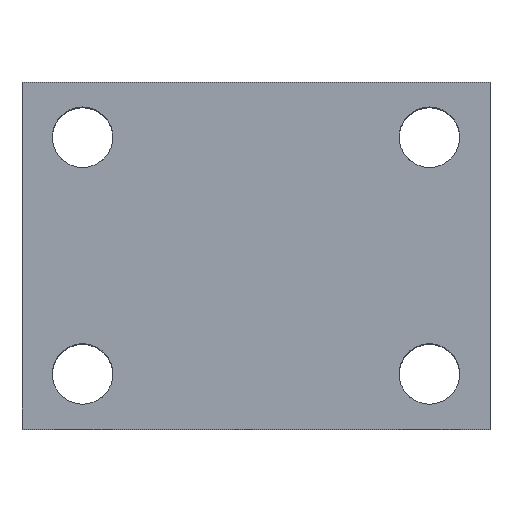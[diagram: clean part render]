
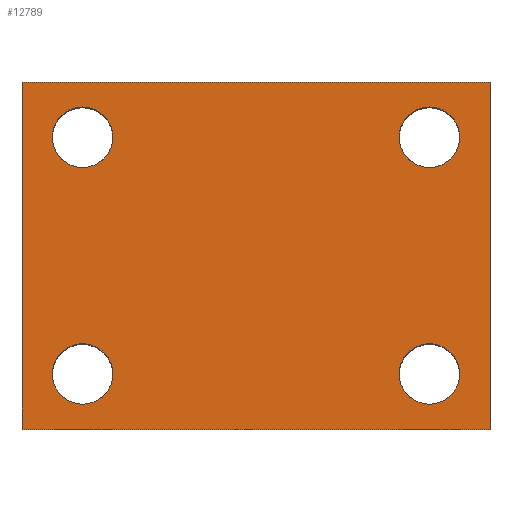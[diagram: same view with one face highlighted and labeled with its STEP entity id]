
A CAD part, top view. The second image highlights one B-rep face of the part: STEP entity #12789.
In plain terms, the highlighted planar face has unit normal (0, 0, 1).
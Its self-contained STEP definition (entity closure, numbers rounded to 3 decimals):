
#203 = DIRECTION ( 'NONE',  ( 0., 0., -1. ) ) ;
#356 = CIRCLE ( 'NONE', #11470, 5.5 ) ;
#364 = EDGE_LOOP ( 'NONE', ( #1953, #11767 ) ) ;
#547 = DIRECTION ( 'NONE',  ( -1., 0., 0. ) ) ;
#734 = CARTESIAN_POINT ( 'NONE',  ( -31.5, 10., 47.5 ) ) ;
#756 = VERTEX_POINT ( 'NONE', #14643 ) ;
#841 = ORIENTED_EDGE ( 'NONE', *, *, #3830, .T. ) ;
#1269 = VERTEX_POINT ( 'NONE', #15732 ) ;
#1343 = DIRECTION ( 'NONE',  ( -1., 0., 0. ) ) ;
#1619 = FACE_OUTER_BOUND ( 'NONE', #6662, .T. ) ;
#1671 = DIRECTION ( 'NONE',  ( 1., 0., 0. ) ) ;
#1738 = LINE ( 'NONE', #13819, #4977 ) ;
#1742 = AXIS2_PLACEMENT_3D ( 'NONE', #3159, #12877, #4534 ) ;
#1953 = ORIENTED_EDGE ( 'NONE', *, *, #3225, .T. ) ;
#2108 = DIRECTION ( 'NONE',  ( -1., 0., 0. ) ) ;
#2119 = DIRECTION ( 'NONE',  ( 0., -1., 0. ) ) ;
#2634 = DIRECTION ( 'NONE',  ( 0., 0., -1. ) ) ;
#2912 = AXIS2_PLACEMENT_3D ( 'NONE', #734, #10421, #2108 ) ;
#2975 = DIRECTION ( 'NONE',  ( 0., 0., -1. ) ) ;
#3159 = CARTESIAN_POINT ( 'NONE',  ( -31.5, 53., 47.5 ) ) ;
#3195 = EDGE_CURVE ( 'NONE', #5571, #6062, #4403, .T. ) ;
#3225 = EDGE_CURVE ( 'NONE', #1269, #13439, #356, .T. ) ;
#3304 = CARTESIAN_POINT ( 'NONE',  ( -26., 53., 47.5 ) ) ;
#3360 = VERTEX_POINT ( 'NONE', #12641 ) ;
#3409 = EDGE_CURVE ( 'NONE', #13439, #1269, #16200, .T. ) ;
#3611 = EDGE_CURVE ( 'NONE', #15605, #14184, #3763, .T. ) ;
#3763 = CIRCLE ( 'NONE', #7370, 5.5 ) ;
#3830 = EDGE_CURVE ( 'NONE', #10463, #16294, #15968, .T. ) ;
#3983 = LINE ( 'NONE', #11760, #14204 ) ;
#4034 = ORIENTED_EDGE ( 'NONE', *, *, #3611, .T. ) ;
#4131 = DIRECTION ( 'NONE',  ( 0., 0., -1. ) ) ;
#4403 = CIRCLE ( 'NONE', #8660, 5.5 ) ;
#4478 = ORIENTED_EDGE ( 'NONE', *, *, #16741, .T. ) ;
#4534 = DIRECTION ( 'NONE',  ( -1., 0., 0. ) ) ;
#4977 = VECTOR ( 'NONE', #8332, 1000. ) ;
#4983 = EDGE_CURVE ( 'NONE', #756, #3360, #14626, .T. ) ;
#5115 = CARTESIAN_POINT ( 'NONE',  ( -26., 10., 47.5 ) ) ;
#5220 = AXIS2_PLACEMENT_3D ( 'NONE', #16484, #8130, #17906 ) ;
#5273 = CARTESIAN_POINT ( 'NONE',  ( -37., 53., 47.5 ) ) ;
#5306 = FACE_BOUND ( 'NONE', #16841, .T. ) ;
#5332 = CARTESIAN_POINT ( 'NONE',  ( -42.5, 0., 47.5 ) ) ;
#5571 = VERTEX_POINT ( 'NONE', #17213 ) ;
#5707 = VECTOR ( 'NONE', #17958, 1000. ) ;
#5816 = VERTEX_POINT ( 'NONE', #5273 ) ;
#6062 = VERTEX_POINT ( 'NONE', #6080 ) ;
#6080 = CARTESIAN_POINT ( 'NONE',  ( 37., 10., 47.5 ) ) ;
#6662 = EDGE_LOOP ( 'NONE', ( #841, #14929, #17243, #4478 ) ) ;
#6696 = EDGE_LOOP ( 'NONE', ( #16554, #17996 ) ) ;
#7370 = AXIS2_PLACEMENT_3D ( 'NONE', #11297, #2975, #12687 ) ;
#8130 = DIRECTION ( 'NONE',  ( 0., 0., -1. ) ) ;
#8177 = CARTESIAN_POINT ( 'NONE',  ( -42.5, 0., 47.5 ) ) ;
#8332 = DIRECTION ( 'NONE',  ( 0., -1., 0. ) ) ;
#8454 = CARTESIAN_POINT ( 'NONE',  ( -42.5, 63., 47.5 ) ) ;
#8563 = CARTESIAN_POINT ( 'NONE',  ( -42.5, 63., 47.5 ) ) ;
#8660 = AXIS2_PLACEMENT_3D ( 'NONE', #17999, #9637, #1343 ) ;
#8781 = EDGE_CURVE ( 'NONE', #6062, #5571, #17678, .T. ) ;
#8814 = DIRECTION ( 'NONE',  ( 0., 0., -1. ) ) ;
#8994 = FACE_BOUND ( 'NONE', #11162, .T. ) ;
#9637 = DIRECTION ( 'NONE',  ( 0., 0., -1. ) ) ;
#9857 = DIRECTION ( 'NONE',  ( -1., 0., 0. ) ) ;
#9882 = EDGE_CURVE ( 'NONE', #10647, #5816, #17084, .T. ) ;
#10421 = DIRECTION ( 'NONE',  ( 0., 0., -1. ) ) ;
#10463 = VERTEX_POINT ( 'NONE', #5332 ) ;
#10506 = VECTOR ( 'NONE', #1671, 1000. ) ;
#10647 = VERTEX_POINT ( 'NONE', #3304 ) ;
#10729 = EDGE_CURVE ( 'NONE', #3360, #16294, #3983, .T. ) ;
#10852 = ORIENTED_EDGE ( 'NONE', *, *, #9882, .T. ) ;
#10957 = CARTESIAN_POINT ( 'NONE',  ( -31.5, 53., 47.5 ) ) ;
#11162 = EDGE_LOOP ( 'NONE', ( #16191, #10852 ) ) ;
#11166 = AXIS2_PLACEMENT_3D ( 'NONE', #8454, #203, #9857 ) ;
#11297 = CARTESIAN_POINT ( 'NONE',  ( -31.5, 10., 47.5 ) ) ;
#11470 = AXIS2_PLACEMENT_3D ( 'NONE', #12470, #4131, #13878 ) ;
#11532 = ORIENTED_EDGE ( 'NONE', *, *, #15484, .T. ) ;
#11760 = CARTESIAN_POINT ( 'NONE',  ( 42.5, 63., 47.5 ) ) ;
#11767 = ORIENTED_EDGE ( 'NONE', *, *, #3409, .T. ) ;
#12339 = DIRECTION ( 'NONE',  ( -1., 0., 0. ) ) ;
#12368 = CIRCLE ( 'NONE', #2912, 5.5 ) ;
#12470 = CARTESIAN_POINT ( 'NONE',  ( 31.5, 53., 47.5 ) ) ;
#12550 = CARTESIAN_POINT ( 'NONE',  ( 42.5, 0., 47.5 ) ) ;
#12641 = CARTESIAN_POINT ( 'NONE',  ( 42.5, 63., 47.5 ) ) ;
#12673 = FACE_BOUND ( 'NONE', #6696, .T. ) ;
#12687 = DIRECTION ( 'NONE',  ( -1., 0., 0. ) ) ;
#12789 = ADVANCED_FACE ( 'NONE', ( #8994, #5306, #12673, #15971, #1619 ), #16808, .F. ) ;
#12877 = DIRECTION ( 'NONE',  ( 0., 0., -1. ) ) ;
#13107 = EDGE_CURVE ( 'NONE', #5816, #10647, #13778, .T. ) ;
#13439 = VERTEX_POINT ( 'NONE', #17899 ) ;
#13778 = CIRCLE ( 'NONE', #17738, 5.5 ) ;
#13819 = CARTESIAN_POINT ( 'NONE',  ( -42.5, 63., 47.5 ) ) ;
#13878 = DIRECTION ( 'NONE',  ( -1., 0., 0. ) ) ;
#14184 = VERTEX_POINT ( 'NONE', #17434 ) ;
#14204 = VECTOR ( 'NONE', #2119, 1000. ) ;
#14251 = AXIS2_PLACEMENT_3D ( 'NONE', #17178, #8814, #547 ) ;
#14626 = LINE ( 'NONE', #8563, #10506 ) ;
#14643 = CARTESIAN_POINT ( 'NONE',  ( -42.5, 63., 47.5 ) ) ;
#14929 = ORIENTED_EDGE ( 'NONE', *, *, #10729, .F. ) ;
#15484 = EDGE_CURVE ( 'NONE', #14184, #15605, #12368, .T. ) ;
#15605 = VERTEX_POINT ( 'NONE', #5115 ) ;
#15732 = CARTESIAN_POINT ( 'NONE',  ( 26., 53., 47.5 ) ) ;
#15968 = LINE ( 'NONE', #8177, #5707 ) ;
#15971 = FACE_BOUND ( 'NONE', #364, .T. ) ;
#16191 = ORIENTED_EDGE ( 'NONE', *, *, #13107, .T. ) ;
#16200 = CIRCLE ( 'NONE', #14251, 5.5 ) ;
#16294 = VERTEX_POINT ( 'NONE', #12550 ) ;
#16484 = CARTESIAN_POINT ( 'NONE',  ( 31.5, 10., 47.5 ) ) ;
#16554 = ORIENTED_EDGE ( 'NONE', *, *, #3195, .T. ) ;
#16741 = EDGE_CURVE ( 'NONE', #756, #10463, #1738, .T. ) ;
#16808 = PLANE ( 'NONE',  #11166 ) ;
#16841 = EDGE_LOOP ( 'NONE', ( #11532, #4034 ) ) ;
#17084 = CIRCLE ( 'NONE', #1742, 5.5 ) ;
#17178 = CARTESIAN_POINT ( 'NONE',  ( 31.5, 53., 47.5 ) ) ;
#17213 = CARTESIAN_POINT ( 'NONE',  ( 26., 10., 47.5 ) ) ;
#17243 = ORIENTED_EDGE ( 'NONE', *, *, #4983, .F. ) ;
#17434 = CARTESIAN_POINT ( 'NONE',  ( -37., 10., 47.5 ) ) ;
#17678 = CIRCLE ( 'NONE', #5220, 5.5 ) ;
#17738 = AXIS2_PLACEMENT_3D ( 'NONE', #10957, #2634, #12339 ) ;
#17899 = CARTESIAN_POINT ( 'NONE',  ( 37., 53., 47.5 ) ) ;
#17906 = DIRECTION ( 'NONE',  ( -1., 0., 0. ) ) ;
#17958 = DIRECTION ( 'NONE',  ( 1., 0., 0. ) ) ;
#17996 = ORIENTED_EDGE ( 'NONE', *, *, #8781, .T. ) ;
#17999 = CARTESIAN_POINT ( 'NONE',  ( 31.5, 10., 47.5 ) ) ;
